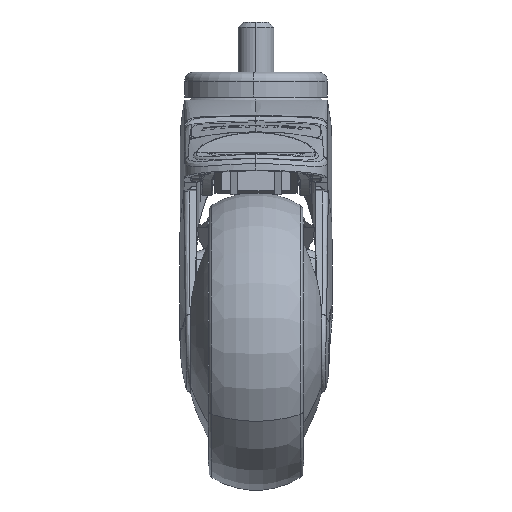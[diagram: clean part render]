
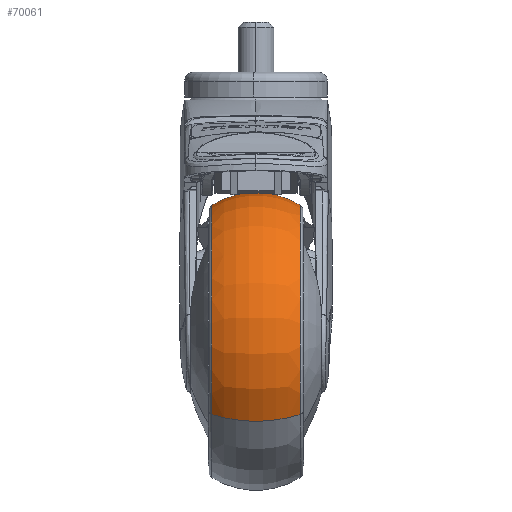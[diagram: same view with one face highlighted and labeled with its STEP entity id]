
A CAD part, left-side view. The second image highlights one B-rep face of the part: STEP entity #70061.
In plain terms, the highlighted toroidal (fillet/blend) face has major radius 22 mm and minor radius 28 mm.
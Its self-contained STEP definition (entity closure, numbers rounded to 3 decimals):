
#1110 = CARTESIAN_POINT ( 'NONE',  ( -0.27, 5.667, -33.534 ) ) ;
#1112 = AXIS2_PLACEMENT_3D ( 'NONE', #1160, #1157, #1156 ) ;
#1113 = CIRCLE ( 'NONE', #1164, 45.764 ) ;
#1118 = CIRCLE ( 'NONE', #1112, 28. ) ;
#1132 = CARTESIAN_POINT ( 'NONE',  ( -57.509, -9.141, -69.807 ) ) ;
#1144 = AXIS2_PLACEMENT_3D ( 'NONE', #1187, #1186, #1185 ) ;
#1149 = DIRECTION ( 'NONE',  ( -0.845, 0., -0.535 ) ) ;
#1150 = DIRECTION ( 'NONE',  ( 0.535, 0., -0.845 ) ) ;
#1152 = AXIS2_PLACEMENT_3D ( 'NONE', #1110, #1150, #1149 ) ;
#1156 = DIRECTION ( 'NONE',  ( 0.845, 0., 0.535 ) ) ;
#1157 = DIRECTION ( 'NONE',  ( -0.535, 0., 0.845 ) ) ;
#1158 = CIRCLE ( 'NONE', #1152, 28. ) ;
#1160 = CARTESIAN_POINT ( 'NONE',  ( -37.436, 5.667, -57.087 ) ) ;
#1161 = DIRECTION ( 'NONE',  ( 0.845, 0., 0.535 ) ) ;
#1162 = DIRECTION ( 'NONE',  ( 0., -1., 0. ) ) ;
#1163 = CARTESIAN_POINT ( 'NONE',  ( -18.853, -9.141, -45.31 ) ) ;
#1164 = AXIS2_PLACEMENT_3D ( 'NONE', #1163, #1162, #1161 ) ;
#1166 = CARTESIAN_POINT ( 'NONE',  ( 19.803, -9.141, -20.814 ) ) ;
#1167 = DIRECTION ( 'NONE',  ( 0.845, 0., 0.535 ) ) ;
#1168 = DIRECTION ( 'NONE',  ( 0., -1., 0. ) ) ;
#1169 = CARTESIAN_POINT ( 'NONE',  ( -18.853, 20.474, -45.31 ) ) ;
#1170 = AXIS2_PLACEMENT_3D ( 'NONE', #1169, #1168, #1167 ) ;
#1171 = CIRCLE ( 'NONE', #1170, 45.764 ) ;
#1185 = DIRECTION ( 'NONE',  ( 0.845, 0., 0.535 ) ) ;
#1186 = DIRECTION ( 'NONE',  ( 0., -1., 0. ) ) ;
#1187 = CARTESIAN_POINT ( 'NONE',  ( -18.853, 5.667, -45.31 ) ) ;
#1195 = TOROIDAL_SURFACE ( 'NONE', #1144, 22., 28. ) ;
#1200 = FACE_OUTER_BOUND ( 'NONE', #69999, .T. ) ;
#69739 = VERTEX_POINT ( 'NONE', #82463 ) ;
#69740 = VERTEX_POINT ( 'NONE', #82486 ) ;
#69999 = EDGE_LOOP ( 'NONE', ( #70062, #70045, #70051, #70050 ) ) ;
#70040 = EDGE_CURVE ( 'NONE', #69740, #69739, #1171, .T. ) ;
#70042 = VERTEX_POINT ( 'NONE', #1132 ) ;
#70045 = ORIENTED_EDGE ( 'NONE', *, *, #70047, .T. ) ;
#70046 = EDGE_CURVE ( 'NONE', #70048, #70042, #1113, .T. ) ;
#70047 = EDGE_CURVE ( 'NONE', #69739, #70042, #1118, .T. ) ;
#70048 = VERTEX_POINT ( 'NONE', #1166 ) ;
#70050 = ORIENTED_EDGE ( 'NONE', *, *, #70052, .F. ) ;
#70051 = ORIENTED_EDGE ( 'NONE', *, *, #70046, .F. ) ;
#70052 = EDGE_CURVE ( 'NONE', #69740, #70048, #1158, .T. ) ;
#70061 = ADVANCED_FACE ( 'NONE', ( #1200 ), #1195, .T. ) ;
#70062 = ORIENTED_EDGE ( 'NONE', *, *, #70040, .T. ) ;
#82463 = CARTESIAN_POINT ( 'NONE',  ( -57.509, 20.474, -69.807 ) ) ;
#82486 = CARTESIAN_POINT ( 'NONE',  ( 19.803, 20.474, -20.814 ) ) ;
